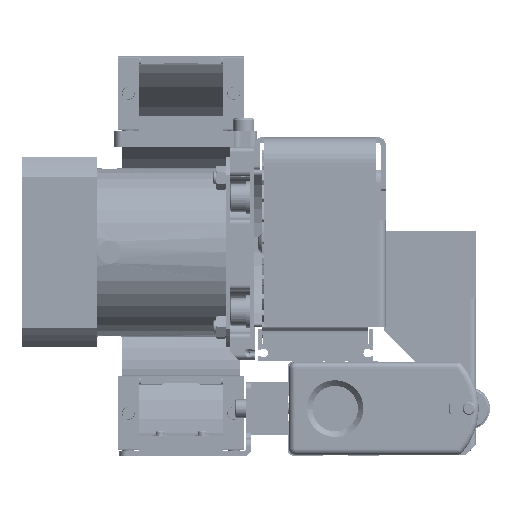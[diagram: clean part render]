
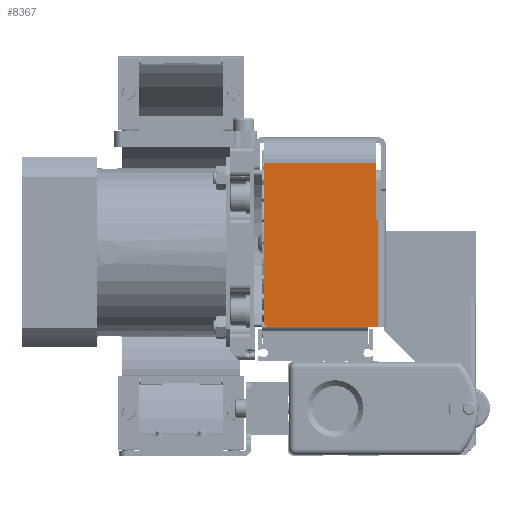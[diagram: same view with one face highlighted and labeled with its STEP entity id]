
A CAD part, front view. The second image highlights one B-rep face of the part: STEP entity #8367.
In plain terms, the highlighted planar face has unit normal (0, -1, 0) as drawn and (1, 0, 0) by its records, which use the part's own axes.
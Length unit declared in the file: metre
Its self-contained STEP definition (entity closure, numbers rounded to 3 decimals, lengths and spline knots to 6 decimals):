
#8367 = ADVANCED_FACE( '', ( #16854 ), #16855, .F. );
#16854 = FACE_OUTER_BOUND( '', #26872, .T. );
#16855 = PLANE( '', #26873 );
#26872 = EDGE_LOOP( '', ( #43875, #43876, #43877, #43878, #43879, #43880, #43881 ) );
#26873 = AXIS2_PLACEMENT_3D( '', #43882, #43883, #43884 );
#43875 = ORIENTED_EDGE( '', *, *, #64127, .F. );
#43876 = ORIENTED_EDGE( '', *, *, #64128, .T. );
#43877 = ORIENTED_EDGE( '', *, *, #64129, .T. );
#43878 = ORIENTED_EDGE( '', *, *, #64130, .F. );
#43879 = ORIENTED_EDGE( '', *, *, #64131, .T. );
#43880 = ORIENTED_EDGE( '', *, *, #63830, .T. );
#43881 = ORIENTED_EDGE( '', *, *, #58575, .F. );
#43882 = CARTESIAN_POINT( '', ( 0.21354, -0.027229, 0.078238 ) );
#43883 = DIRECTION( '', ( -1., 0., 0. ) );
#43884 = DIRECTION( '', ( 0., 1., 0. ) );
#58575 = EDGE_CURVE( '', #69438, #69433, #69440, .T. );
#63830 = EDGE_CURVE( '', #78005, #69433, #78008, .F. );
#64127 = EDGE_CURVE( '', #78436, #69438, #78437, .F. );
#64128 = EDGE_CURVE( '', #78436, #78438, #78439, .F. );
#64129 = EDGE_CURVE( '', #78438, #78440, #78441, .T. );
#64130 = EDGE_CURVE( '', #78442, #78440, #78443, .T. );
#64131 = EDGE_CURVE( '', #78442, #78005, #78444, .T. );
#69433 = VERTEX_POINT( '', #84895 );
#69438 = VERTEX_POINT( '', #84901 );
#69440 = LINE( '', #84903, #84904 );
#78005 = VERTEX_POINT( '', #97522 );
#78008 = LINE( '', #97527, #97528 );
#78436 = VERTEX_POINT( '', #98334 );
#78437 = LINE( '', #98335, #98336 );
#78438 = VERTEX_POINT( '', #98337 );
#78439 = CIRCLE( '', #98338, 0.001524 );
#78440 = VERTEX_POINT( '', #98339 );
#78441 = LINE( '', #98340, #98341 );
#78442 = VERTEX_POINT( '', #98342 );
#78443 = LINE( '', #98343, #98344 );
#78444 = LINE( '', #98345, #98346 );
#84895 = CARTESIAN_POINT( '', ( 0.21354, 0.025603, 0.078238 ) );
#84901 = CARTESIAN_POINT( '', ( 0.21354, -0.027229, 0.078238 ) );
#84903 = CARTESIAN_POINT( '', ( 0.21354, -0.027229, 0.078238 ) );
#84904 = VECTOR( '', #105893, 1. );
#97522 = CARTESIAN_POINT( '', ( 0.21354, 0.025603, 0.051442 ) );
#97527 = CARTESIAN_POINT( '', ( 0.21354, 0.025603, 0.078238 ) );
#97528 = VECTOR( '', #112549, 1. );
#98334 = CARTESIAN_POINT( '', ( 0.21354, -0.027229, 0.002166 ) );
#98335 = CARTESIAN_POINT( '', ( 0.21354, -0.027229, 0.078238 ) );
#98336 = VECTOR( '', #112886, 1. );
#98337 = CARTESIAN_POINT( '', ( 0.21354, -0.025705, 0.000642 ) );
#98338 = AXIS2_PLACEMENT_3D( '', #112887, #112888, #112889 );
#98339 = CARTESIAN_POINT( '', ( 0.21354, 0.026873, 0.000642 ) );
#98340 = CARTESIAN_POINT( '', ( 0.21354, -0.027229, 0.000642 ) );
#98341 = VECTOR( '', #112890, 1. );
#98342 = CARTESIAN_POINT( '', ( 0.21354, 0.026873, 0.051442 ) );
#98343 = CARTESIAN_POINT( '', ( 0.21354, 0.026873, 0.051442 ) );
#98344 = VECTOR( '', #112891, 1. );
#98345 = CARTESIAN_POINT( '', ( 0.21354, 0.025603, 0.051442 ) );
#98346 = VECTOR( '', #112892, 1. );
#105893 = DIRECTION( '', ( 0., 1., 0. ) );
#112549 = DIRECTION( '', ( 0., 0., -1. ) );
#112886 = DIRECTION( '', ( 0., 0., -1. ) );
#112887 = CARTESIAN_POINT( '', ( 0.21354, -0.025705, 0.002166 ) );
#112888 = DIRECTION( '', ( -1., 0., 0. ) );
#112889 = DIRECTION( '', ( 0., 1., 0. ) );
#112890 = DIRECTION( '', ( 0., 1., 0. ) );
#112891 = DIRECTION( '', ( 0., 0., -1. ) );
#112892 = DIRECTION( '', ( 0., -1., 0. ) );
